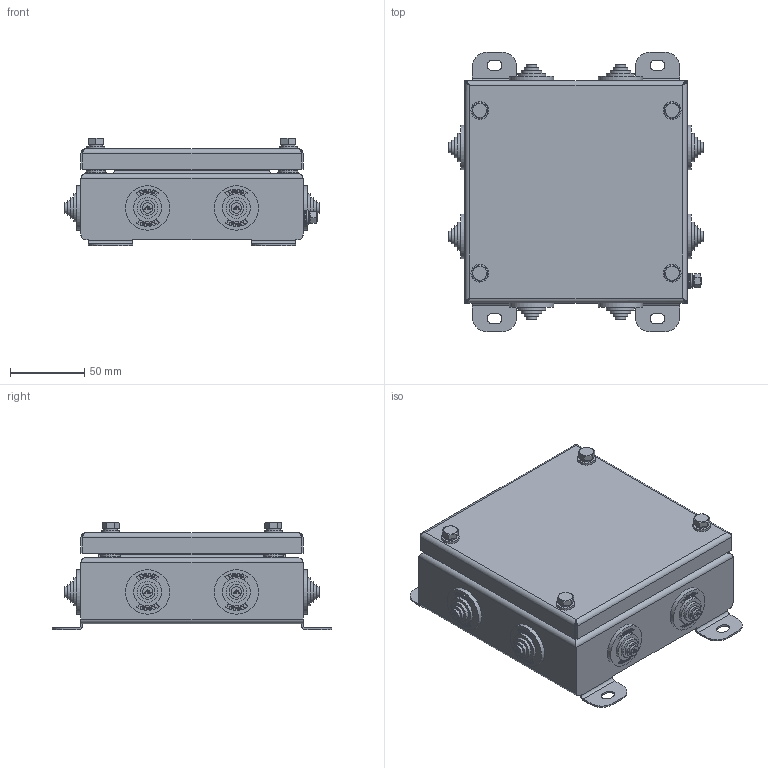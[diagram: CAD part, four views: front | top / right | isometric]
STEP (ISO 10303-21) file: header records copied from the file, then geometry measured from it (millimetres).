
FILE_DESCRIPTION(('STEP AP203'), '1');
FILE_NAME('Êîðîáêà 1515 IP55', '', ('UNSPECIFIED'), ('UNSPECIFIED'), 'ASCON STEP Converter 1.6', 'ASCON Math Kernel', '');
FILE_SCHEMA(('CONFIG_CONTROL_DESIGN'));
Length unit declared in the file: millimetre
Bounding box: 172.5 x 189 x 72.5 mm (x, y, z)
Volume: 1292198.9 mm3; surface area: 123485.1 mm2
Topology: 1 solids, 1 shells, 1695 faces, 4374 edges, 2882 vertices
Faces by surface type: plane 1250, extrusion 288, cylinder 135, bspline 8, cone 8, torus 6
Full cylindrical faces by diameter (mm): 3.7 x1, 5 x2, 5.5 x2, 6 x4, 6.5 x1, 6.6 x4, 7 x8, 8.5 x4, 10 x10, 12 x4, 13 x4, 14 x12, 19 x8, 30 x8
Entity records: 68655 total; most frequent: CARTESIAN_POINT 15066, ORIENTED_EDGE 8576, DIRECTION 6984, EDGE_CURVE 4288, VECTOR 3636, LINE 3348, VERTEX_POINT 2882, EDGE_LOOP 2008
